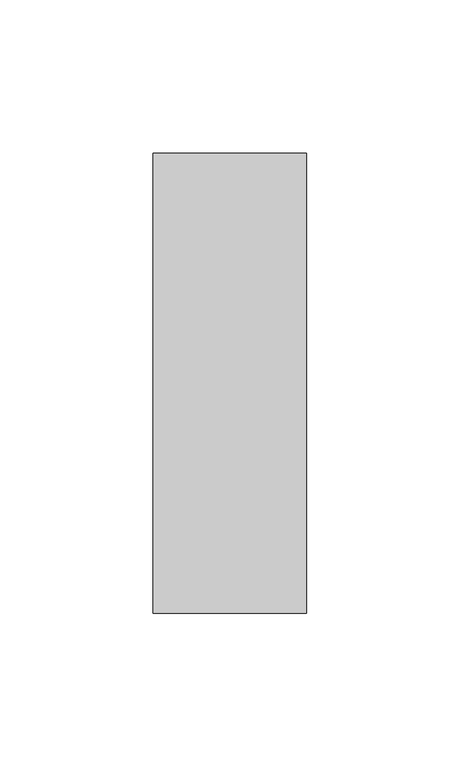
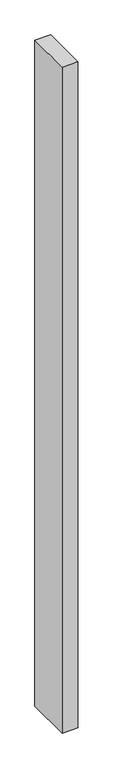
"""IFC4 building model written with IfcOpenShell, lengths in millimetres: member geometry, Прямоугольный импост : 50х150мм."""

from ifc_helpers import new_model, si_unit, frame, origin, place, context, project, spatial, polyline, outline, extrude, source, transform, mapped, element, save


def member_a6ba09a3(model_context):
    return source(origin(), model_context, "Body", "SweptSolid", [
        extrude(outline(polyline([(0.0, 75.0), (0.0, -75.0), (-50.0, -75.0), (-50.0, 75.0), (0.0, 75.0)])), frame((0.0, 0.0, -2240.0), z_axis=(0.0, 0.0, 1.0), x_axis=(1.0, 0.0, 0.0)), (0.0, 0.0, 1.0), 2240.0),
    ])


if __name__ == "__main__":
    model = new_model("IFC4")
    model_context = context("Model", 3, world=origin())
    ifc_project = project(units=[si_unit("LENGTHUNIT", "METRE", prefix="MILLI")], contexts=[model_context])
    site = spatial("IfcSite", under=ifc_project)
    building = spatial("IfcBuilding", under=site)
    placement = place(None, origin())
    member_shape = member_a6ba09a3(model_context)
    element("IfcMember", 1, ObjectType="Прямоугольный импост : 50х150мм", at=placement, inside=building, context=model_context, shape_type="MappedRepresentation", body=[
        mapped(member_shape, transform((0.0, 0.0, 0.0), x_axis=(1.0, 0.0, 0.0), y_axis=(0.0, 1.0, 0.0), z_axis=(0.0, 0.0, 1.0))),
    ])
    save(model, "model.ifc")
